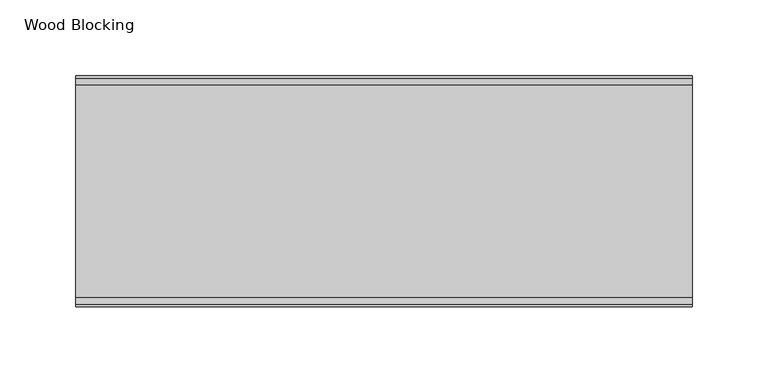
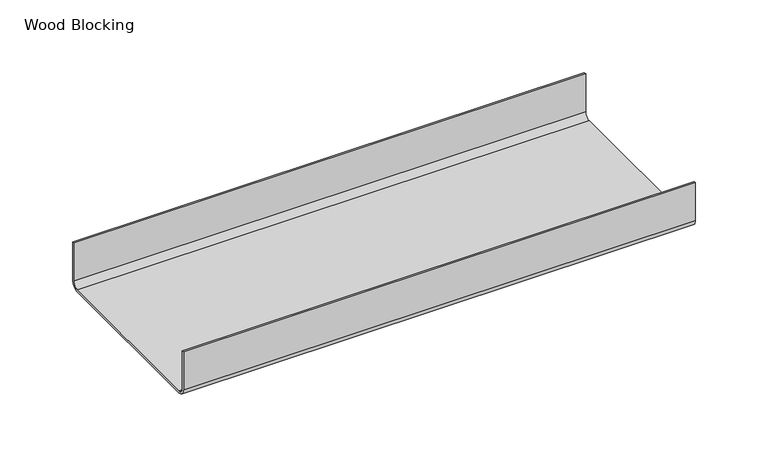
"""IFC4 building model written with IfcOpenShell, lengths in millimetres: proxy geometry, CRAi Generic Model Line Based Metal Framing Track : Wood Blocking."""

from ifc_helpers import new_model, si_unit, point, frame, frame_2d, origin, place, context, project, spatial, polyline, circle_curve, trimmed, segment, composite_curve, outline, extrude, source, transform, mapped, element, save


def wood_blocking_5320d369(model_context):
    return source(origin(), model_context, "Body", "SweptSolid", [
        extrude(outline(composite_curve([segment(polyline([(146.05, 0.0), (6.35, 0.0)]), True, "CONTINUOUS"), segment(trimmed(circle_curve(frame_2d((6.35, 6.35)), 6.35), [point((6.35, 0.0))], [point((0.0, 6.35))], False, "CARTESIAN"), True, "CONTINUOUS"), segment(polyline([(0.0, 6.35), (0.0, 38.1), (1.5875, 38.1), (1.5875, 6.35)]), True, "CONTINUOUS"), segment(trimmed(circle_curve(frame_2d((6.35, 6.35)), 4.7625), [point((1.5875, 6.35))], [point((6.35, 1.5875))], True, "CARTESIAN"), True, "CONTINUOUS"), segment(polyline([(6.35, 1.5875), (146.0504713, 1.5875)]), True, "CONTINUOUS"), segment(trimmed(circle_curve(frame_2d((146.05, 6.35)), 4.7625), [point((146.0504713, 1.5875))], [point((150.8125, 6.3495615))], True, "CARTESIAN"), True, "CONTINUOUS"), segment(polyline([(150.8125, 6.3495615), (150.8125, 38.1), (152.4, 38.1), (152.4, 6.35)]), True, "CONTINUOUS"), segment(trimmed(circle_curve(frame_2d((146.05, 6.35)), 6.35), [point((152.4, 6.35))], [point((146.05, 0.0))], False, "CARTESIAN"), True, "CONTINUOUS")], self_intersect=False)), frame((0.0, 0.0, 0.0), z_axis=(1.0, 0.0, 0.0), x_axis=(0.0, 1.0, 0.0)), (0.0, 0.0, 1.0), 406.4),
    ])


if __name__ == "__main__":
    model = new_model("IFC4")
    model_context = context("Model", 3, world=origin())
    ifc_project = project(units=[si_unit("LENGTHUNIT", "METRE", prefix="MILLI")], contexts=[model_context])
    site = spatial("IfcSite", under=ifc_project)
    building = spatial("IfcBuilding", under=site)
    placement = place(None, origin())
    wood_blocking_shape = wood_blocking_5320d369(model_context)
    element("IfcBuildingElementProxy", 1, Name="CRAi Generic Model Line Based Metal Framing Track : Wood Blocking", ObjectType="CRAi Generic Model Line Based Metal Framing Track : Wood Blocking", at=placement, inside=building, context=model_context, shape_type="MappedRepresentation", body=[
        mapped(wood_blocking_shape, transform((0.0, 0.0, 0.0), x_axis=(1.0, 0.0, 0.0), y_axis=(0.0, 1.0, 0.0), z_axis=(0.0, 0.0, 1.0))),
    ])
    save(model, "model.ifc")
